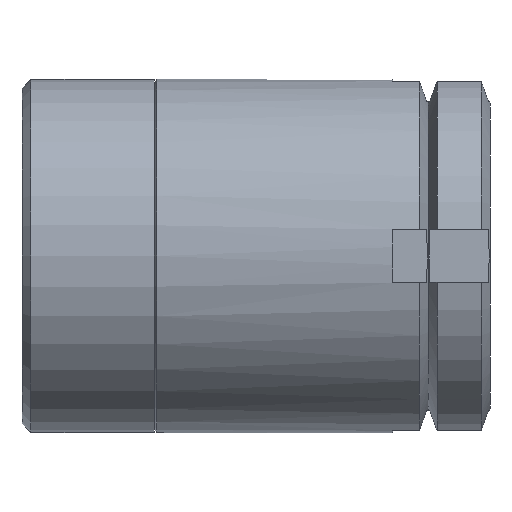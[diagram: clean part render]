
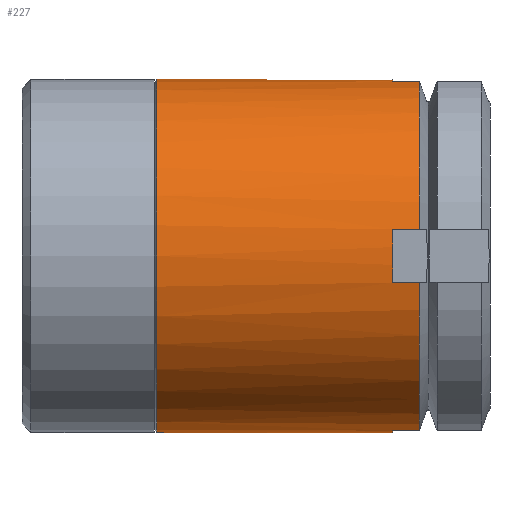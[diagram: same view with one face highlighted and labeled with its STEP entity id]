
A CAD part, front view. The second image highlights one B-rep face of the part: STEP entity #227.
In plain terms, the highlighted cylindrical face has radius 20 mm (diameter 40 mm), a full revolution.
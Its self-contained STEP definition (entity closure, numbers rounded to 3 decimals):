
#227 = ADVANCED_FACE( '', ( #342, #343 ), #344, .T. );
#342 = FACE_OUTER_BOUND( '', #527, .T. );
#343 = FACE_OUTER_BOUND( '', #528, .T. );
#344 = CYLINDRICAL_SURFACE( '', #529, 20. );
#527 = EDGE_LOOP( '', ( #756 ) );
#528 = EDGE_LOOP( '', ( #757, #758, #759, #760, #761, #762, #763, #764, #765, #766, #767, #768, #769, #770, #771, #772 ) );
#529 = AXIS2_PLACEMENT_3D( '', #773, #774, #775 );
#756 = ORIENTED_EDGE( '', *, *, #1157, .F. );
#757 = ORIENTED_EDGE( '', *, *, #1158, .F. );
#758 = ORIENTED_EDGE( '', *, *, #1159, .T. );
#759 = ORIENTED_EDGE( '', *, *, #1160, .T. );
#760 = ORIENTED_EDGE( '', *, *, #1161, .F. );
#761 = ORIENTED_EDGE( '', *, *, #1162, .F. );
#762 = ORIENTED_EDGE( '', *, *, #1163, .T. );
#763 = ORIENTED_EDGE( '', *, *, #1164, .T. );
#764 = ORIENTED_EDGE( '', *, *, #1165, .F. );
#765 = ORIENTED_EDGE( '', *, *, #1166, .F. );
#766 = ORIENTED_EDGE( '', *, *, #1143, .T. );
#767 = ORIENTED_EDGE( '', *, *, #1167, .T. );
#768 = ORIENTED_EDGE( '', *, *, #1168, .F. );
#769 = ORIENTED_EDGE( '', *, *, #1169, .F. );
#770 = ORIENTED_EDGE( '', *, *, #1170, .T. );
#771 = ORIENTED_EDGE( '', *, *, #1171, .T. );
#772 = ORIENTED_EDGE( '', *, *, #1172, .F. );
#773 = CARTESIAN_POINT( '', ( 0., 5.577, 0. ) );
#774 = DIRECTION( '', ( 0., 1., 0. ) );
#775 = DIRECTION( '', ( 0., 0., -1. ) );
#1143 = EDGE_CURVE( '', #1288, #1286, #1289, .T. );
#1157 = EDGE_CURVE( '', #1315, #1315, #1316, .T. );
#1158 = EDGE_CURVE( '', #1317, #1318, #1319, .T. );
#1159 = EDGE_CURVE( '', #1317, #1320, #1321, .T. );
#1160 = EDGE_CURVE( '', #1320, #1322, #1323, .T. );
#1161 = EDGE_CURVE( '', #1324, #1322, #1325, .T. );
#1162 = EDGE_CURVE( '', #1326, #1324, #1327, .T. );
#1163 = EDGE_CURVE( '', #1326, #1328, #1329, .T. );
#1164 = EDGE_CURVE( '', #1328, #1330, #1331, .T. );
#1165 = EDGE_CURVE( '', #1332, #1330, #1333, .T. );
#1166 = EDGE_CURVE( '', #1288, #1332, #1334, .T. );
#1167 = EDGE_CURVE( '', #1286, #1335, #1336, .T. );
#1168 = EDGE_CURVE( '', #1337, #1335, #1338, .T. );
#1169 = EDGE_CURVE( '', #1339, #1337, #1340, .T. );
#1170 = EDGE_CURVE( '', #1339, #1341, #1342, .T. );
#1171 = EDGE_CURVE( '', #1341, #1343, #1344, .T. );
#1172 = EDGE_CURVE( '', #1318, #1343, #1345, .T. );
#1286 = VERTEX_POINT( '', #1522 );
#1288 = VERTEX_POINT( '', #1530 );
#1289 = LINE( '', #1531, #1532 );
#1315 = VERTEX_POINT( '', #1560 );
#1316 = CIRCLE( '', #1561, 20. );
#1317 = VERTEX_POINT( '', #1562 );
#1318 = VERTEX_POINT( '', #1563 );
#1319 = CIRCLE( '', #1564, 20. );
#1320 = VERTEX_POINT( '', #1565 );
#1321 = LINE( '', #1566, #1567 );
#1322 = VERTEX_POINT( '', #1568 );
#1323 = CIRCLE( '', #1569, 20. );
#1324 = VERTEX_POINT( '', #1570 );
#1325 = LINE( '', #1571, #1572 );
#1326 = VERTEX_POINT( '', #1573 );
#1327 = CIRCLE( '', #1574, 20. );
#1328 = VERTEX_POINT( '', #1575 );
#1329 = LINE( '', #1576, #1577 );
#1330 = VERTEX_POINT( '', #1578 );
#1331 = CIRCLE( '', #1579, 20. );
#1332 = VERTEX_POINT( '', #1580 );
#1333 = LINE( '', #1581, #1582 );
#1334 = CIRCLE( '', #1583, 20. );
#1335 = VERTEX_POINT( '', #1584 );
#1336 = CIRCLE( '', #1585, 20. );
#1337 = VERTEX_POINT( '', #1586 );
#1338 = LINE( '', #1587, #1588 );
#1339 = VERTEX_POINT( '', #1589 );
#1340 = CIRCLE( '', #1590, 20. );
#1341 = VERTEX_POINT( '', #1591 );
#1342 = LINE( '', #1592, #1593 );
#1343 = VERTEX_POINT( '', #1594 );
#1344 = CIRCLE( '', #1595, 20. );
#1345 = LINE( '', #1596, #1597 );
#1522 = CARTESIAN_POINT( '', ( -19.774, 45.001, -3. ) );
#1530 = CARTESIAN_POINT( '', ( -19.774, 42.001, -3. ) );
#1531 = CARTESIAN_POINT( '', ( -19.774, 42.001, -3. ) );
#1532 = VECTOR( '', #1978, 1000. );
#1560 = CARTESIAN_POINT( '', ( 0., 15.265, -20. ) );
#1561 = AXIS2_PLACEMENT_3D( '', #2014, #2015, #2016 );
#1562 = CARTESIAN_POINT( '', ( 19.774, 42.001, 3. ) );
#1563 = CARTESIAN_POINT( '', ( 19.774, 42.001, -3. ) );
#1564 = AXIS2_PLACEMENT_3D( '', #2017, #2018, #2019 );
#1565 = CARTESIAN_POINT( '', ( 19.774, 45.001, 3. ) );
#1566 = CARTESIAN_POINT( '', ( 19.774, 42.001, 3. ) );
#1567 = VECTOR( '', #2020, 1000. );
#1568 = CARTESIAN_POINT( '', ( 3., 45.001, 19.774 ) );
#1569 = AXIS2_PLACEMENT_3D( '', #2021, #2022, #2023 );
#1570 = CARTESIAN_POINT( '', ( 3., 42.001, 19.774 ) );
#1571 = CARTESIAN_POINT( '', ( 3., 42.001, 19.774 ) );
#1572 = VECTOR( '', #2024, 1000. );
#1573 = CARTESIAN_POINT( '', ( -3., 42.001, 19.774 ) );
#1574 = AXIS2_PLACEMENT_3D( '', #2025, #2026, #2027 );
#1575 = CARTESIAN_POINT( '', ( -3., 45.001, 19.774 ) );
#1576 = CARTESIAN_POINT( '', ( -3., 42.001, 19.774 ) );
#1577 = VECTOR( '', #2028, 1000. );
#1578 = CARTESIAN_POINT( '', ( -19.774, 45.001, 3. ) );
#1579 = AXIS2_PLACEMENT_3D( '', #2029, #2030, #2031 );
#1580 = CARTESIAN_POINT( '', ( -19.774, 42.001, 3. ) );
#1581 = CARTESIAN_POINT( '', ( -19.774, 42.001, 3. ) );
#1582 = VECTOR( '', #2032, 1000. );
#1583 = AXIS2_PLACEMENT_3D( '', #2033, #2034, #2035 );
#1584 = CARTESIAN_POINT( '', ( -3., 45.001, -19.774 ) );
#1585 = AXIS2_PLACEMENT_3D( '', #2036, #2037, #2038 );
#1586 = CARTESIAN_POINT( '', ( -3., 42.001, -19.774 ) );
#1587 = CARTESIAN_POINT( '', ( -3., 42.001, -19.774 ) );
#1588 = VECTOR( '', #2039, 1000. );
#1589 = CARTESIAN_POINT( '', ( 3., 42.001, -19.774 ) );
#1590 = AXIS2_PLACEMENT_3D( '', #2040, #2041, #2042 );
#1591 = CARTESIAN_POINT( '', ( 3., 45.001, -19.774 ) );
#1592 = CARTESIAN_POINT( '', ( 3., 42.001, -19.774 ) );
#1593 = VECTOR( '', #2043, 1000. );
#1594 = CARTESIAN_POINT( '', ( 19.774, 45.001, -3. ) );
#1595 = AXIS2_PLACEMENT_3D( '', #2044, #2045, #2046 );
#1596 = CARTESIAN_POINT( '', ( 19.774, 42.001, -3. ) );
#1597 = VECTOR( '', #2047, 1000. );
#1978 = DIRECTION( '', ( 0., 1., 0. ) );
#2014 = CARTESIAN_POINT( '', ( 0., 15.265, 0. ) );
#2015 = DIRECTION( '', ( 0., -1., 0. ) );
#2016 = DIRECTION( '', ( 0., 0., -1. ) );
#2017 = CARTESIAN_POINT( '', ( 0., 42.001, 0. ) );
#2018 = DIRECTION( '', ( 0., 1., 0. ) );
#2019 = DIRECTION( '', ( 0., 0., 1. ) );
#2020 = DIRECTION( '', ( 0., 1., 0. ) );
#2021 = CARTESIAN_POINT( '', ( 0., 45.001, 0. ) );
#2022 = DIRECTION( '', ( 0., -1., 0. ) );
#2023 = DIRECTION( '', ( 0., 0., -1. ) );
#2024 = DIRECTION( '', ( 0., 1., 0. ) );
#2025 = CARTESIAN_POINT( '', ( 0., 42.001, 0. ) );
#2026 = DIRECTION( '', ( 0., 1., 0. ) );
#2027 = DIRECTION( '', ( 0., 0., 1. ) );
#2028 = DIRECTION( '', ( 0., 1., 0. ) );
#2029 = CARTESIAN_POINT( '', ( 0., 45.001, 0. ) );
#2030 = DIRECTION( '', ( 0., -1., 0. ) );
#2031 = DIRECTION( '', ( 0., 0., -1. ) );
#2032 = DIRECTION( '', ( 0., 1., 0. ) );
#2033 = CARTESIAN_POINT( '', ( 0., 42.001, 0. ) );
#2034 = DIRECTION( '', ( 0., 1., 0. ) );
#2035 = DIRECTION( '', ( 0., 0., 1. ) );
#2036 = CARTESIAN_POINT( '', ( 0., 45.001, 0. ) );
#2037 = DIRECTION( '', ( 0., -1., 0. ) );
#2038 = DIRECTION( '', ( 0., 0., -1. ) );
#2039 = DIRECTION( '', ( 0., 1., 0. ) );
#2040 = CARTESIAN_POINT( '', ( 0., 42.001, 0. ) );
#2041 = DIRECTION( '', ( 0., 1., 0. ) );
#2042 = DIRECTION( '', ( 0., 0., 1. ) );
#2043 = DIRECTION( '', ( 0., 1., 0. ) );
#2044 = CARTESIAN_POINT( '', ( 0., 45.001, 0. ) );
#2045 = DIRECTION( '', ( 0., -1., 0. ) );
#2046 = DIRECTION( '', ( 0., 0., -1. ) );
#2047 = DIRECTION( '', ( 0., 1., 0. ) );
